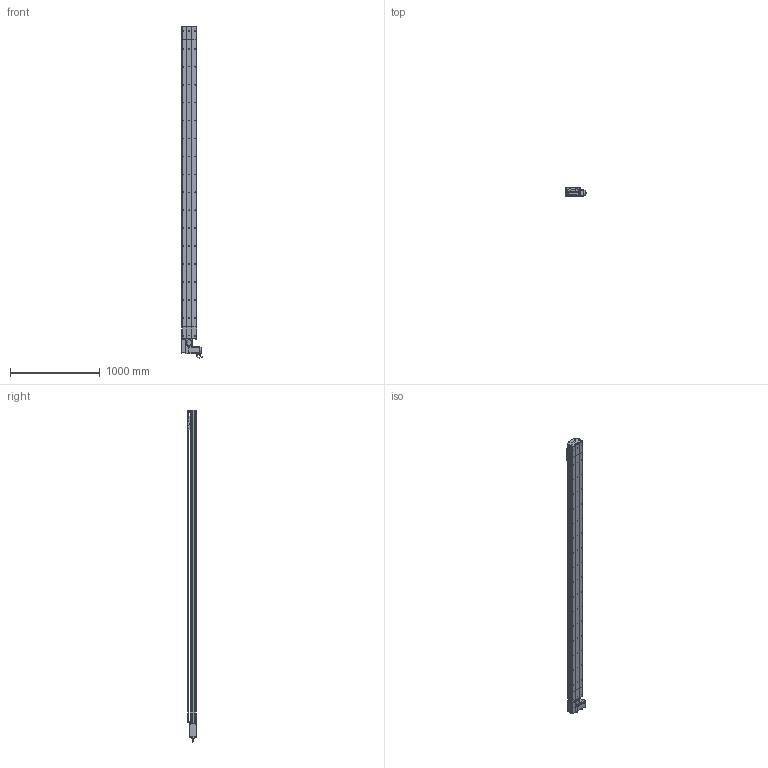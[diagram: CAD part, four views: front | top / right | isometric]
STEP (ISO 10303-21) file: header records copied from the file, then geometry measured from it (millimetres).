
FILE_DESCRIPTION (( 'STEP AP214' ), '1' );
FILE_NAME ('D17 TBH RH S3200.STEP', '2010-06-30T09:10:35', ( 'Christophe Gaillard' ), ( 'SGA' ), 'SwSTEP 2.0', 'SolidWorks 2010', '' );
FILE_SCHEMA (( 'AUTOMOTIVE_DESIGN' ));
Length unit declared in the file: millimetre
Products named in the file (40): couvercle D17B_Default; Head RH D17B_Default; vis M5 L70_Default; course 3200 D17B_Default; plaque de  bout tail D17B_Default; Rail D17B; tete d''axe poulie D17B; corpl tail D17B_Default; Tail D17B_Default; Renvoi RH_Default; cache arbre D17_Default; Vis M5 L16-2_Default; vis M5 L16_Default; poulie tail_Default; Plaque racord D17_Default; cache D17_Default; vis M5 L5_Default; corp D17B 3200_Default; couvercle D17B course L3200_Default; vis M5 L25_Default; Moteur motionking 90BLDC125A-640; avant 90BLDC125A-640; corps 90BLDC125A-640; codeur 90BLDC125-640; Conecteur2_Default; Conecteur_Default; Couroie+ rail D17 Course 3200 ; vis M5 L12_Default; vis M5 L8 90°_Default; chariot D17S_Default; Chariot D17; guide D17; corpl head D17 _Default; couvercle D17B head_Default; plaque de  bout head D17B RH_Default; Couroie tail D17B_Default; D17 TBH RH S3200; Arbre+rail head D17B; poulie head_Default; couroie head D17_Default
Assembly tree (70 placements, depth 4):
  D17 TBH RH S3200
    course 3200 D17B_Default
      corp D17B 3200_Default
      couvercle D17B course L3200_Default
      Couroie+ rail D17 Course 3200 
    Head RH D17B_Default
      vis M5 L12_Default  x8
      plaque de  bout head D17B RH_Default
      couroie head D17_Default
      Vis M5 L16-2_Default  x4
      vis M5 L25_Default  x2
      corpl head D17 _Default
      Plaque racord D17_Default
      cache arbre D17_Default
      vis M5 L5_Default  x4
      vis M5 L16_Default  x2
      vis M5 L70_Default  x4
      cache D17_Default  x2
      Arbre+rail head D17B
      poulie head_Default
      Renvoi RH_Default
      Moteur motionking 90BLDC125A-640
        Conecteur2_Default
        corps 90BLDC125A-640
        codeur 90BLDC125-640
        avant 90BLDC125A-640
        Conecteur_Default
      couvercle D17B head_Default
    chariot D17S_Default
      Chariot D17
      guide D17  x2
      vis M5 L12_Default  x4
    Tail D17B_Default
      poulie tail_Default
      vis M5 L8 90°_Default  x2
      couvercle D17B_Default
      vis M5 L25_Default  x2
      tete d''axe poulie D17B
      plaque de  bout tail D17B_Default
      Rail D17B
      vis M5 L12_Default  x4
      Couroie tail D17B_Default
      corpl tail D17B_Default
Bounding box: 245.2 x 105.65 x 3700.95 mm (x, y, z)
Volume: 20496848.5 mm3; surface area: 5985197.6 mm2
Topology: 94 solids, 94 shells, 2785 faces, 7129 edges, 4586 vertices
Faces by surface type: plane 1607, cylinder 865, bspline 136, cone 88, torus 85, sphere 4
Entity records: 88296 total; most frequent: CARTESIAN_POINT 25845, ORIENTED_EDGE 11030, DIRECTION 10444, EDGE_CURVE 5515, VERTEX_POINT 3610, LINE 3566, VECTOR 3566, AXIS2_PLACEMENT_3D 3439
